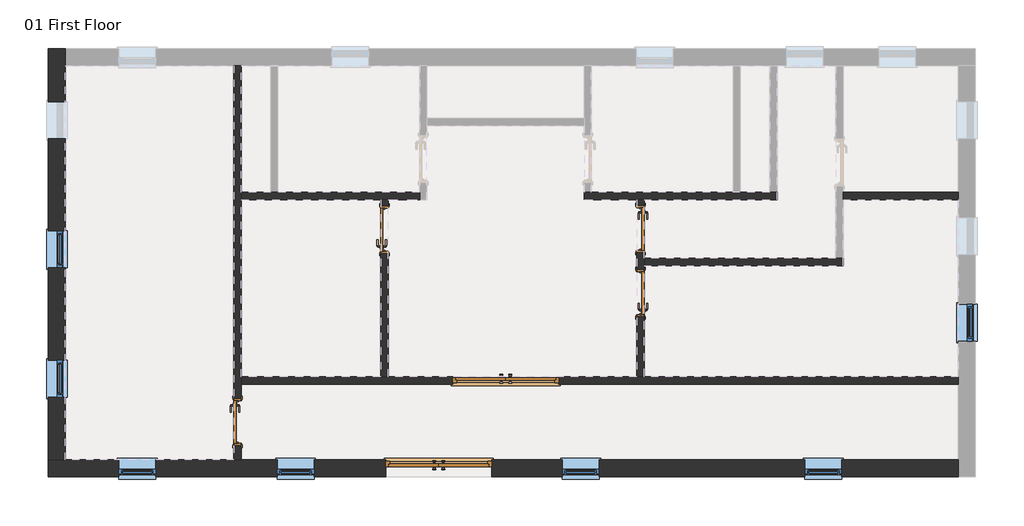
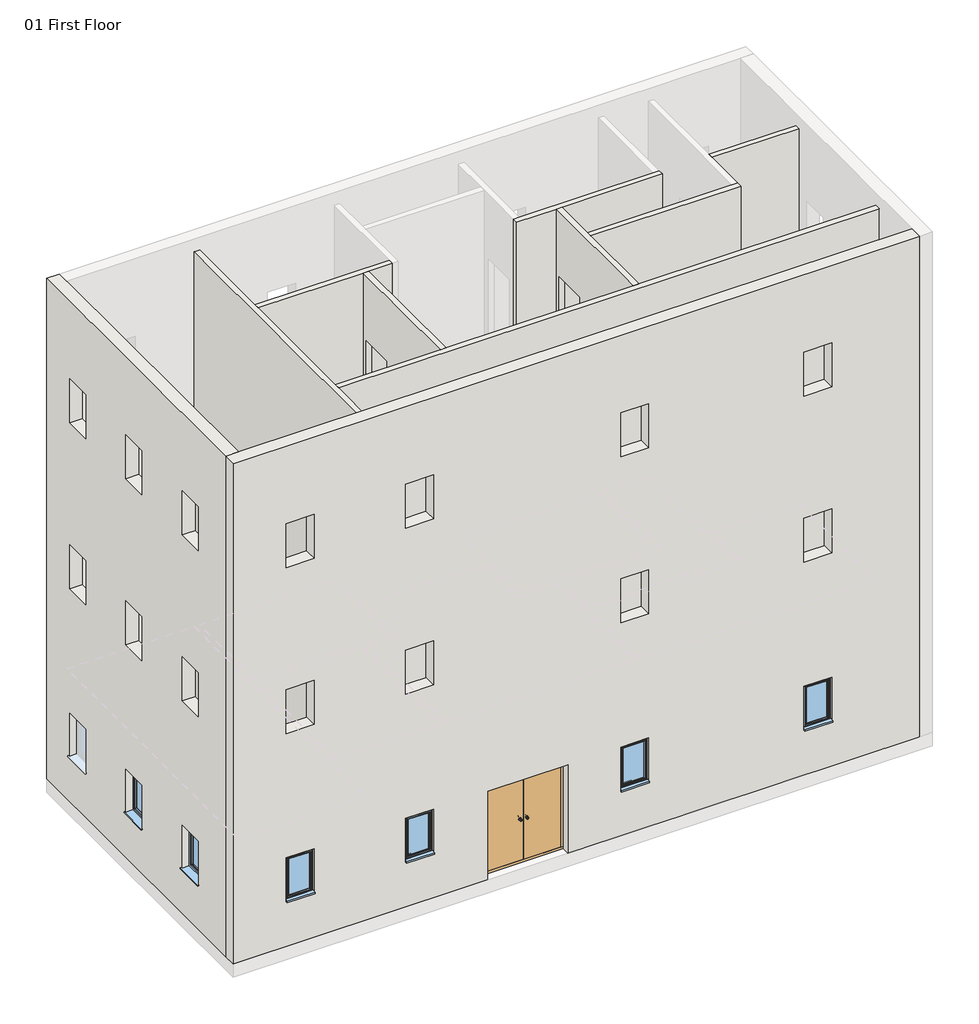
# One storey, part 1 of 2: 10 walls, 7 windows, 6 doors.
"""IFC4 building model written with IfcOpenShell, lengths in millimetres."""

from ifc_helpers import new_model, si_unit, frame, origin, origin_with_axes, place, context, project, spatial, polyline, outline, extrude, faceted_brep, transform, mapped, element, save
from components import extdbl_flush_1810_x_2110mm_182ebfd7, extdbl_flush_1810_x_2110mm_6485e741, intsgl_1_810_x_2110mm_60c2a13c, intsgl_1_810_x_2110mm_5ef26f82, sgl_plain_630_x_1050mm_deep_554a1539

model = new_model("IFC4")

# Units and contexts
model_context = context("Model", 3, world=origin())
ifc_project = project(units=[si_unit("LENGTHUNIT", "METRE", prefix="MILLI")], contexts=[model_context])

# Site, building, storey
site = spatial("IfcSite", under=ifc_project)
building = spatial("IfcBuilding", under=site)
storey = spatial("IfcBuildingStorey", under=building, Name="01 First Floor", Elevation=0.0)

# Doors
placement = place(None, origin())
extdbl_flush_1810_x_2110mm_shape = extdbl_flush_1810_x_2110mm_182ebfd7(model_context)
element("IfcDoor", 1, ObjectType="ExtDbl Flush : 1810 x 2110mm", at=placement, inside=storey, context=model_context, shape_type="MappedRepresentation", body=[
    mapped(extdbl_flush_1810_x_2110mm_shape, transform((1196.9801388, -3470.3924179, 0.0), x_axis=(1.0, 0.0, 0.0), y_axis=(0.0, 1.0, 0.0), z_axis=(0.0, 0.0, 1.0))),
])
extdbl_flush_1810_x_2110mm_2_shape = extdbl_flush_1810_x_2110mm_6485e741(model_context)
element("IfcDoor", 2, ObjectType="ExtDbl Flush : 1810 x 2110mm", at=placement, inside=storey, context=model_context, shape_type="MappedRepresentation", body=[
    mapped(extdbl_flush_1810_x_2110mm_2_shape, transform((55.7801388, -4965.3924179, 0.0), x_axis=(1.0, 0.0, 0.0), y_axis=(0.0, 1.0, 0.0), z_axis=(0.0, 0.0, 1.0))),
])
intsgl_1_810_x_2110mm_shape = intsgl_1_810_x_2110mm_60c2a13c(model_context)
element("IfcDoor", 3, ObjectType="IntSgl (1) : 810 x 2110mm", at=placement, inside=storey, context=model_context, shape_type="MappedRepresentation", body=[
    mapped(intsgl_1_810_x_2110mm_shape, transform((-870.5198612, -902.8924179, 0.0), x_axis=(0.0, 1.0, 0.0), y_axis=(-1.0, 0.0, 0.0), z_axis=(0.0, 0.0, 1.0))),
])
element("IfcDoor", 4, ObjectType="IntSgl (1) : 810 x 2110mm", at=placement, inside=storey, context=model_context, shape_type="MappedRepresentation", body=[
    mapped(intsgl_1_810_x_2110mm_shape, transform((3489.4801388, -890.3924179, 0.0), x_axis=(0.0, -1.0, 0.0), y_axis=(1.0, 0.0, 0.0), z_axis=(0.0, 0.0, 1.0))),
])
intsgl_1_810_x_2110mm_2_shape = intsgl_1_810_x_2110mm_5ef26f82(model_context)
element("IfcDoor", 5, ObjectType="IntSgl (1) : 810 x 2110mm", at=placement, inside=storey, context=model_context, shape_type="MappedRepresentation", body=[
    mapped(intsgl_1_810_x_2110mm_2_shape, transform((3489.4801388, -1982.8924179, 0.0), x_axis=(0.0, 1.0, 0.0), y_axis=(-1.0, 0.0, 0.0), z_axis=(0.0, 0.0, 1.0))),
])
element("IfcDoor", 6, ObjectType="IntSgl (1) : 810 x 2110mm", at=placement, inside=storey, context=model_context, shape_type="MappedRepresentation", body=[
    mapped(intsgl_1_810_x_2110mm_2_shape, transform((-3370.5198612, -4176.6424179, 0.0), x_axis=(0.0, -1.0, 0.0), y_axis=(1.0, 0.0, 0.0), z_axis=(0.0, 0.0, 1.0))),
])

# Walls
element("IfcWall", 7, ObjectType="Cav - 102 75i 100 p - Lwt", at=placement, inside=storey, context=model_context, shape_type="Brep", body=[
    faceted_brep([(960.7801388, -5110.3924179, 2110.0), (960.7801388, -5110.3924179, 0.0), (8901.9801388, -5110.3924179, 0.0), (8901.9801388, -5110.3924179, 11938.0), (-6598.0198612, -5110.3924179, 11938.0), (-6598.0198612, -5110.3924179, 0.0), (-849.2198612, -5110.3924179, 0.0), (-849.2198612, -5110.3924179, 2110.0), (6920.7801388, -5110.3924179, 2110.0), (6920.7801388, -5110.3924179, 1060.0), (6290.7801388, -5110.3924179, 1060.0), (6290.7801388, -5110.3924179, 2110.0), (2785.5801388, -5110.3924179, 2110.0), (2785.5801388, -5110.3924179, 1060.0), (2155.5801388, -5110.3924179, 1060.0), (2155.5801388, -5110.3924179, 2110.0), (-2068.4198612, -5110.3924179, 2110.0), (-2068.4198612, -5110.3924179, 1060.0), (-2698.4198612, -5110.3924179, 1060.0), (-2698.4198612, -5110.3924179, 2110.0), (-4763.6198612, -5110.3924179, 2110.0), (-4763.6198612, -5110.3924179, 1060.0), (-5393.6198612, -5110.3924179, 1060.0), (-5393.6198612, -5110.3924179, 2110.0), (-4763.6198612, -5110.3924179, 6123.2), (-4763.6198612, -5110.3924179, 5073.2), (-5393.6198612, -5110.3924179, 5073.2), (-5393.6198612, -5110.3924179, 6123.2), (-2068.4198612, -5110.3924179, 6123.2), (-2068.4198612, -5110.3924179, 5073.2), (-2698.4198612, -5110.3924179, 5073.2), (-2698.4198612, -5110.3924179, 6123.2), (2785.5801388, -5110.3924179, 6123.2), (2785.5801388, -5110.3924179, 5073.2), (2155.5801388, -5110.3924179, 5073.2), (2155.5801388, -5110.3924179, 6123.2), (6920.7801388, -5110.3924179, 6123.2), (6920.7801388, -5110.3924179, 5073.2), (6290.7801388, -5110.3924179, 5073.2), (6290.7801388, -5110.3924179, 6123.2), (-4763.6198612, -5110.3924179, 10085.6), (-4763.6198612, -5110.3924179, 9035.6), (-5393.6198612, -5110.3924179, 9035.6), (-5393.6198612, -5110.3924179, 10085.6), (-2068.4198612, -5110.3924179, 10085.6), (-2068.4198612, -5110.3924179, 9035.6), (-2698.4198612, -5110.3924179, 9035.6), (-2698.4198612, -5110.3924179, 10085.6), (2785.5801388, -5110.3924179, 10085.6), (2785.5801388, -5110.3924179, 9035.6), (2155.5801388, -5110.3924179, 9035.6), (2155.5801388, -5110.3924179, 10085.6), (6920.7801388, -5110.3924179, 10085.6), (6920.7801388, -5110.3924179, 9035.6), (6290.7801388, -5110.3924179, 9035.6), (6290.7801388, -5110.3924179, 10085.6), (8901.9801388, -4820.3924179, 0.0), (960.7801388, -4820.3924179, 0.0), (960.7801388, -4820.3924179, 2110.0), (-849.2198612, -4820.3924179, 2110.0), (-849.2198612, -4820.3924179, 0.0), (-3308.0198612, -4820.3924179, 0.0), (-3433.0198612, -4820.3924179, 0.0), (-6308.0198612, -4820.3924179, 0.0), (-6598.0198612, -4820.3924179, 0.0), (-6598.0198612, -4820.3924179, 11938.0), (-6308.0198612, -4820.3924179, 11938.0), (8901.9801388, -4820.3924179, 11938.0), (6920.7801388, -4820.3924179, 2110.0), (6290.7801388, -4820.3924179, 2110.0), (6290.7801388, -4820.3924179, 1060.0), (6920.7801388, -4820.3924179, 1060.0), (2785.5801388, -4820.3924179, 2110.0), (2155.5801388, -4820.3924179, 2110.0), (2155.5801388, -4820.3924179, 1060.0), (2785.5801388, -4820.3924179, 1060.0), (-2068.4198612, -4820.3924179, 2110.0), (-2698.4198612, -4820.3924179, 2110.0), (-2698.4198612, -4820.3924179, 1060.0), (-2068.4198612, -4820.3924179, 1060.0), (-4763.6198612, -4820.3924179, 2110.0), (-5393.6198612, -4820.3924179, 2110.0), (-5393.6198612, -4820.3924179, 1060.0), (-4763.6198612, -4820.3924179, 1060.0), (-4763.6198612, -4820.3924179, 6123.2), (-5393.6198612, -4820.3924179, 6123.2), (-5393.6198612, -4820.3924179, 5073.2), (-4763.6198612, -4820.3924179, 5073.2), (-2068.4198612, -4820.3924179, 6123.2), (-2698.4198612, -4820.3924179, 6123.2), (-2698.4198612, -4820.3924179, 5073.2), (-2068.4198612, -4820.3924179, 5073.2), (2785.5801388, -4820.3924179, 6123.2), (2155.5801388, -4820.3924179, 6123.2), (2155.5801388, -4820.3924179, 5073.2), (2785.5801388, -4820.3924179, 5073.2), (6920.7801388, -4820.3924179, 6123.2), (6290.7801388, -4820.3924179, 6123.2), (6290.7801388, -4820.3924179, 5073.2), (6920.7801388, -4820.3924179, 5073.2), (-4763.6198612, -4820.3924179, 10085.6), (-5393.6198612, -4820.3924179, 10085.6), (-5393.6198612, -4820.3924179, 9035.6), (-4763.6198612, -4820.3924179, 9035.6), (-2068.4198612, -4820.3924179, 10085.6), (-2698.4198612, -4820.3924179, 10085.6), (-2698.4198612, -4820.3924179, 9035.6), (-2068.4198612, -4820.3924179, 9035.6), (2785.5801388, -4820.3924179, 10085.6), (2155.5801388, -4820.3924179, 10085.6), (2155.5801388, -4820.3924179, 9035.6), (2785.5801388, -4820.3924179, 9035.6), (6920.7801388, -4820.3924179, 10085.6), (6290.7801388, -4820.3924179, 10085.6), (6290.7801388, -4820.3924179, 9035.6), (6920.7801388, -4820.3924179, 9035.6)], [[[0, 1, 2, 3, 4, 5, 6, 7], [8, 9, 10, 11], [12, 13, 14, 15], [16, 17, 18, 19], [20, 21, 22, 23], [24, 25, 26, 27], [28, 29, 30, 31], [32, 33, 34, 35], [36, 37, 38, 39], [40, 41, 42, 43], [44, 45, 46, 47], [48, 49, 50, 51], [52, 53, 54, 55]], [[56, 57, 58, 59, 60, 61, 62, 63, 64, 65, 66, 67], [68, 69, 70, 71], [72, 73, 74, 75], [76, 77, 78, 79], [80, 81, 82, 83], [84, 85, 86, 87], [88, 89, 90, 91], [92, 93, 94, 95], [96, 97, 98, 99], [100, 101, 102, 103], [104, 105, 106, 107], [108, 109, 110, 111], [112, 113, 114, 115]], [[6, 5, 64, 63, 62, 61, 60]], [[2, 1, 57, 56]], [[4, 3, 67, 66, 65]], [[5, 4, 65, 64]], [[3, 2, 56, 67]], [[9, 8, 68, 71]], [[10, 9, 71, 70]], [[11, 10, 70, 69]], [[8, 11, 69, 68]], [[13, 12, 72, 75]], [[14, 13, 75, 74]], [[15, 14, 74, 73]], [[12, 15, 73, 72]], [[17, 16, 76, 79]], [[18, 17, 79, 78]], [[19, 18, 78, 77]], [[16, 19, 77, 76]], [[21, 20, 80, 83]], [[22, 21, 83, 82]], [[23, 22, 82, 81]], [[20, 23, 81, 80]], [[60, 59, 7, 6]], [[58, 57, 1, 0]], [[59, 58, 0, 7]], [[25, 24, 84, 87]], [[26, 25, 87, 86]], [[27, 26, 86, 85]], [[24, 27, 85, 84]], [[29, 28, 88, 91]], [[30, 29, 91, 90]], [[31, 30, 90, 89]], [[28, 31, 89, 88]], [[33, 32, 92, 95]], [[34, 33, 95, 94]], [[35, 34, 94, 93]], [[32, 35, 93, 92]], [[37, 36, 96, 99]], [[38, 37, 99, 98]], [[39, 38, 98, 97]], [[36, 39, 97, 96]], [[41, 40, 100, 103]], [[42, 41, 103, 102]], [[43, 42, 102, 101]], [[40, 43, 101, 100]], [[45, 44, 104, 107]], [[46, 45, 107, 106]], [[47, 46, 106, 105]], [[44, 47, 105, 104]], [[49, 48, 108, 111]], [[50, 49, 111, 110]], [[51, 50, 110, 109]], [[48, 51, 109, 108]], [[53, 52, 112, 115]], [[54, 53, 115, 114]], [[55, 54, 114, 113]], [[52, 55, 113, 112]]]),
])
element("IfcWall", 8, ObjectType="Cav - 102 75i 100 p - Lwt", at=placement, inside=storey, context=model_context, shape_type="Brep", body=[
    faceted_brep([(-6598.0198612, 2179.6075821, 0.0), (-6598.0198612, -4820.3924179, 0.0), (-6598.0198612, -4820.3924179, 11938.0), (-6598.0198612, 2179.6075821, 11938.0), (-6598.0198612, -3123.5924179, 2110.0), (-6598.0198612, -3753.5924179, 2110.0), (-6598.0198612, -3753.5924179, 1060.0), (-6598.0198612, -3123.5924179, 1060.0), (-6598.0198612, -918.7924179, 2110.0), (-6598.0198612, -1548.7924179, 2110.0), (-6598.0198612, -1548.7924179, 1060.0), (-6598.0198612, -918.7924179, 1060.0), (-6598.0198612, 1280.0075821, 2110.0), (-6598.0198612, 650.0075821, 2110.0), (-6598.0198612, 650.0075821, 1060.0), (-6598.0198612, 1280.0075821, 1060.0), (-6598.0198612, 1280.0075821, 6123.2), (-6598.0198612, 650.0075821, 6123.2), (-6598.0198612, 650.0075821, 5073.2), (-6598.0198612, 1280.0075821, 5073.2), (-6598.0198612, -918.7924179, 6123.2), (-6598.0198612, -1548.7924179, 6123.2), (-6598.0198612, -1548.7924179, 5073.2), (-6598.0198612, -918.7924179, 5073.2), (-6598.0198612, -3123.5924179, 6123.2), (-6598.0198612, -3753.5924179, 6123.2), (-6598.0198612, -3753.5924179, 5073.2), (-6598.0198612, -3123.5924179, 5073.2), (-6598.0198612, 1280.0075821, 10085.6), (-6598.0198612, 650.0075821, 10085.6), (-6598.0198612, 650.0075821, 9035.6), (-6598.0198612, 1280.0075821, 9035.6), (-6598.0198612, -918.7924179, 10085.6), (-6598.0198612, -1548.7924179, 10085.6), (-6598.0198612, -1548.7924179, 9035.6), (-6598.0198612, -918.7924179, 9035.6), (-6598.0198612, -3123.5924179, 10085.6), (-6598.0198612, -3753.5924179, 10085.6), (-6598.0198612, -3753.5924179, 9035.6), (-6598.0198612, -3123.5924179, 9035.6), (-6308.0198612, 2179.6075821, 0.0), (-6308.0198612, 2179.6075821, 11938.0), (-6308.0198612, 1889.6075821, 11938.0), (-6308.0198612, -4820.3924179, 11938.0), (-6308.0198612, -4820.3924179, 0.0), (-6308.0198612, 1889.6075821, 0.0), (-6308.0198612, -3123.5924179, 2110.0), (-6308.0198612, -3123.5924179, 1060.0), (-6308.0198612, -3753.5924179, 1060.0), (-6308.0198612, -3753.5924179, 2110.0), (-6308.0198612, -918.7924179, 2110.0), (-6308.0198612, -918.7924179, 1060.0), (-6308.0198612, -1548.7924179, 1060.0), (-6308.0198612, -1548.7924179, 2110.0), (-6308.0198612, 1280.0075821, 2110.0), (-6308.0198612, 1280.0075821, 1060.0), (-6308.0198612, 650.0075821, 1060.0), (-6308.0198612, 650.0075821, 2110.0), (-6308.0198612, 1280.0075821, 6123.2), (-6308.0198612, 1280.0075821, 5073.2), (-6308.0198612, 650.0075821, 5073.2), (-6308.0198612, 650.0075821, 6123.2), (-6308.0198612, -918.7924179, 6123.2), (-6308.0198612, -918.7924179, 5073.2), (-6308.0198612, -1548.7924179, 5073.2), (-6308.0198612, -1548.7924179, 6123.2), (-6308.0198612, -3123.5924179, 6123.2), (-6308.0198612, -3123.5924179, 5073.2), (-6308.0198612, -3753.5924179, 5073.2), (-6308.0198612, -3753.5924179, 6123.2), (-6308.0198612, 1280.0075821, 10085.6), (-6308.0198612, 1280.0075821, 9035.6), (-6308.0198612, 650.0075821, 9035.6), (-6308.0198612, 650.0075821, 10085.6), (-6308.0198612, -918.7924179, 10085.6), (-6308.0198612, -918.7924179, 9035.6), (-6308.0198612, -1548.7924179, 9035.6), (-6308.0198612, -1548.7924179, 10085.6), (-6308.0198612, -3123.5924179, 10085.6), (-6308.0198612, -3123.5924179, 9035.6), (-6308.0198612, -3753.5924179, 9035.6), (-6308.0198612, -3753.5924179, 10085.6)], [[[0, 1, 2, 3], [4, 5, 6, 7], [8, 9, 10, 11], [12, 13, 14, 15], [16, 17, 18, 19], [20, 21, 22, 23], [24, 25, 26, 27], [28, 29, 30, 31], [32, 33, 34, 35], [36, 37, 38, 39]], [[40, 41, 42, 43, 44, 45], [46, 47, 48, 49], [50, 51, 52, 53], [54, 55, 56, 57], [58, 59, 60, 61], [62, 63, 64, 65], [66, 67, 68, 69], [70, 71, 72, 73], [74, 75, 76, 77], [78, 79, 80, 81]], [[1, 0, 40, 45, 44]], [[3, 2, 43, 42, 41]], [[0, 3, 41, 40]], [[2, 1, 44, 43]], [[47, 46, 4, 7]], [[48, 47, 7, 6]], [[49, 48, 6, 5]], [[46, 49, 5, 4]], [[51, 50, 8, 11]], [[52, 51, 11, 10]], [[53, 52, 10, 9]], [[50, 53, 9, 8]], [[55, 54, 12, 15]], [[56, 55, 15, 14]], [[57, 56, 14, 13]], [[54, 57, 13, 12]], [[59, 58, 16, 19]], [[60, 59, 19, 18]], [[61, 60, 18, 17]], [[58, 61, 17, 16]], [[63, 62, 20, 23]], [[64, 63, 23, 22]], [[65, 64, 22, 21]], [[62, 65, 21, 20]], [[67, 66, 24, 27]], [[68, 67, 27, 26]], [[69, 68, 26, 25]], [[66, 69, 25, 24]], [[71, 70, 28, 31]], [[72, 71, 31, 30]], [[73, 72, 30, 29]], [[70, 73, 29, 28]], [[75, 74, 32, 35]], [[76, 75, 35, 34]], [[77, 76, 34, 33]], [[74, 77, 33, 32]], [[79, 78, 36, 39]], [[80, 79, 39, 38]], [[81, 80, 38, 37]], [[78, 81, 37, 36]]]),
])
element("IfcWall", 9, ObjectType="Partn - p 100 p - Block", at=placement, inside=storey, context=model_context, shape_type="Brep", body=[
    faceted_brep([(-270.5198612, -265.3924179, 0.0), (-2683.0198612, -265.3924179, 0.0), (-2808.0198612, -265.3924179, 0.0), (-3308.0198612, -265.3924179, 0.0), (-3308.0198612, -265.3924179, 11638.0), (-270.5198612, -265.3924179, 11638.0), (-270.5198612, -390.3924179, 0.0), (-270.5198612, -390.3924179, 11638.0), (-808.0198612, -390.3924179, 11638.0), (-933.0198612, -390.3924179, 11638.0), (-3308.0198612, -390.3924179, 11638.0), (-3308.0198612, -390.3924179, 0.0), (-933.0198612, -390.3924179, 0.0), (-808.0198612, -390.3924179, 0.0)], [[[0, 1, 2, 3, 4, 5]], [[6, 7, 8, 9, 10, 11, 12, 13]], [[3, 2, 1, 0, 6, 13, 12, 11]], [[5, 4, 10, 9, 8, 7]], [[4, 3, 11, 10]], [[0, 5, 7, 6]]]),
])
element("IfcWall", 10, ObjectType="Partn - p 100 p - Block", at=placement, inside=storey, context=model_context, shape_type="Brep", body=[
    faceted_brep([(-3308.0198612, 1889.6075821, 11638.0), (-3308.0198612, -265.3924179, 11638.0), (-3308.0198612, -390.3924179, 11638.0), (-3308.0198612, -3407.8924179, 11638.0), (-3308.0198612, -3532.8924179, 11638.0), (-3308.0198612, -4820.3924179, 11638.0), (-3308.0198612, -4820.3924179, 0.0), (-3308.0198612, -4581.6424179, 0.0), (-3308.0198612, -4581.6424179, 2110.0), (-3308.0198612, -3771.6424179, 2110.0), (-3308.0198612, -3771.6424179, 0.0), (-3308.0198612, -3532.8924179, 0.0), (-3308.0198612, -3407.8924179, 0.0), (-3308.0198612, -390.3924179, 0.0), (-3308.0198612, -265.3924179, 0.0), (-3308.0198612, 1889.6075821, 0.0), (-3308.0198612, -4581.6424179, 4013.2), (-3308.0198612, -4581.6424179, 6123.2), (-3308.0198612, -3771.6424179, 6123.2), (-3308.0198612, -3771.6424179, 4013.2), (-3308.0198612, -4581.6424179, 7975.6), (-3308.0198612, -4581.6424179, 10085.6), (-3308.0198612, -3771.6424179, 10085.6), (-3308.0198612, -3771.6424179, 7975.6), (-3433.0198612, -4820.3924179, 11638.0), (-3433.0198612, 1889.6075821, 11638.0), (-3433.0198612, 1889.6075821, 0.0), (-3433.0198612, -3771.6424179, 0.0), (-3433.0198612, -3771.6424179, 2110.0), (-3433.0198612, -4581.6424179, 2110.0), (-3433.0198612, -4581.6424179, 0.0), (-3433.0198612, -4820.3924179, 0.0), (-3433.0198612, -4581.6424179, 4013.2), (-3433.0198612, -3771.6424179, 4013.2), (-3433.0198612, -3771.6424179, 6123.2), (-3433.0198612, -4581.6424179, 6123.2), (-3433.0198612, -4581.6424179, 7975.6), (-3433.0198612, -3771.6424179, 7975.6), (-3433.0198612, -3771.6424179, 10085.6), (-3433.0198612, -4581.6424179, 10085.6)], [[[0, 1, 2, 3, 4, 5, 6, 7, 8, 9, 10, 11, 12, 13, 14, 15], [16, 17, 18, 19], [20, 21, 22, 23]], [[24, 25, 26, 27, 28, 29, 30, 31], [32, 33, 34, 35], [36, 37, 38, 39]], [[26, 15, 14, 13, 12, 11, 10, 27]], [[6, 31, 30, 7]], [[5, 4, 3, 2, 1, 0, 25, 24]], [[0, 15, 26, 25]], [[6, 5, 24, 31]], [[29, 8, 7, 30]], [[8, 29, 28, 9]], [[9, 28, 27, 10]], [[17, 16, 32, 35]], [[18, 17, 35, 34]], [[19, 18, 34, 33]], [[16, 19, 33, 32]], [[21, 20, 36, 39]], [[22, 21, 39, 38]], [[23, 22, 38, 37]], [[20, 23, 37, 36]]]),
])
element("IfcWall", 11, ObjectType="Partn - p 100 p - Block", at=placement, inside=storey, context=model_context, shape_type="Brep", body=[
    faceted_brep([(2529.4801388, -390.3924179, 0.0), (3426.9801388, -390.3924179, 0.0), (3551.9801388, -390.3924179, 0.0), (5816.9801388, -390.3924179, 0.0), (5816.9801388, -390.3924179, 11638.0), (3551.9801388, -390.3924179, 11638.0), (3426.9801388, -390.3924179, 11638.0), (2529.4801388, -390.3924179, 11638.0), (2529.4801388, -265.3924179, 0.0), (2529.4801388, -265.3924179, 11638.0), (2654.4801388, -265.3924179, 11638.0), (5691.9801388, -265.3924179, 11638.0), (5816.9801388, -265.3924179, 11638.0), (5816.9801388, -265.3924179, 0.0), (5691.9801388, -265.3924179, 0.0), (5191.9801388, -265.3924179, 0.0), (5066.9801388, -265.3924179, 0.0), (2654.4801388, -265.3924179, 0.0)], [[[0, 1, 2, 3, 4, 5, 6, 7]], [[8, 9, 10, 11, 12, 13, 14, 15, 16, 17]], [[3, 2, 1, 0, 8, 17, 16, 15, 14, 13]], [[7, 6, 5, 4, 12, 11, 10, 9]], [[4, 3, 13, 12]], [[0, 7, 9, 8]]]),
])
element("IfcWall", 12, ObjectType="Partn - p 100 p - Block", at=placement, inside=storey, context=model_context, shape_type="SweptSolid", body=[
    extrude(outline(polyline([(-3407.8924179, 11638.0), (-390.3924179, 11638.0), (-390.3924179, 0.0), (-497.8924179, 0.0), (-497.8924179, 2110.0), (-1307.8924179, 2110.0), (-1307.8924179, 0.0), (-3407.8924179, 0.0), (-3407.8924179, 11638.0)]), holes=[polyline([(-497.8924179, 4013.2), (-497.8924179, 6123.2), (-1307.8924179, 6123.2), (-1307.8924179, 4013.2), (-497.8924179, 4013.2)]), polyline([(-497.8924179, 7975.6), (-497.8924179, 10085.6), (-1307.8924179, 10085.6), (-1307.8924179, 7975.6), (-497.8924179, 7975.6)])]), frame((-933.0198612, 0.0, 0.0), z_axis=(1.0, 0.0, 0.0), x_axis=(0.0, 1.0, 0.0)), (0.0, 0.0, 1.0), 125.0),
])
element("IfcWall", 13, ObjectType="Partn - p 100 p - Block", at=placement, inside=storey, context=model_context, shape_type="Brep", body=[
    faceted_brep([(2101.9801388, -3532.8924179, 2110.0), (2101.9801388, -3532.8924179, 0.0), (8901.9801388, -3532.8924179, 0.0), (8901.9801388, -3532.8924179, 11638.0), (-3308.0198612, -3532.8924179, 11638.0), (-3308.0198612, -3532.8924179, 0.0), (291.9801388, -3532.8924179, 0.0), (291.9801388, -3532.8924179, 2110.0), (291.9801388, -3532.8924179, 6123.2), (2101.9801388, -3532.8924179, 6123.2), (2101.9801388, -3532.8924179, 4013.2), (291.9801388, -3532.8924179, 4013.2), (291.9801388, -3532.8924179, 10085.6), (2101.9801388, -3532.8924179, 10085.6), (2101.9801388, -3532.8924179, 7975.6), (291.9801388, -3532.8924179, 7975.6), (8901.9801388, -3407.8924179, 0.0), (3551.9801388, -3407.8924179, 0.0), (3426.9801388, -3407.8924179, 0.0), (2101.9801388, -3407.8924179, 0.0), (2101.9801388, -3407.8924179, 2110.0), (291.9801388, -3407.8924179, 2110.0), (291.9801388, -3407.8924179, 0.0), (-808.0198612, -3407.8924179, 0.0), (-933.0198612, -3407.8924179, 0.0), (-3308.0198612, -3407.8924179, 0.0), (-3308.0198612, -3407.8924179, 11638.0), (-933.0198612, -3407.8924179, 11638.0), (-808.0198612, -3407.8924179, 11638.0), (3426.9801388, -3407.8924179, 11638.0), (3551.9801388, -3407.8924179, 11638.0), (8901.9801388, -3407.8924179, 11638.0), (291.9801388, -3407.8924179, 6123.2), (291.9801388, -3407.8924179, 4013.2), (2101.9801388, -3407.8924179, 4013.2), (2101.9801388, -3407.8924179, 6123.2), (291.9801388, -3407.8924179, 10085.6), (291.9801388, -3407.8924179, 7975.6), (2101.9801388, -3407.8924179, 7975.6), (2101.9801388, -3407.8924179, 10085.6)], [[[0, 1, 2, 3, 4, 5, 6, 7], [8, 9, 10, 11], [12, 13, 14, 15]], [[16, 17, 18, 19, 20, 21, 22, 23, 24, 25, 26, 27, 28, 29, 30, 31], [32, 33, 34, 35], [36, 37, 38, 39]], [[6, 5, 25, 24, 23, 22]], [[2, 1, 19, 18, 17, 16]], [[4, 3, 31, 30, 29, 28, 27, 26]], [[3, 2, 16, 31]], [[22, 21, 7, 6]], [[20, 19, 1, 0]], [[21, 20, 0, 7]], [[5, 4, 26, 25]], [[33, 32, 8, 11]], [[34, 33, 11, 10]], [[35, 34, 10, 9]], [[32, 35, 9, 8]], [[37, 36, 12, 15]], [[38, 37, 15, 14]], [[39, 38, 14, 13]], [[36, 39, 13, 12]]]),
])
element("IfcWall", 14, ObjectType="Partn - p 100 p - Block", at=placement, inside=storey, context=model_context, shape_type="Brep", body=[
    faceted_brep([(3551.9801388, -390.3924179, 11638.0), (3551.9801388, -1390.3924179, 11638.0), (3551.9801388, -1515.3924179, 11638.0), (3551.9801388, -3407.8924179, 11638.0), (3551.9801388, -3407.8924179, 0.0), (3551.9801388, -2387.8924179, 0.0), (3551.9801388, -2387.8924179, 2110.0), (3551.9801388, -1577.8924179, 2110.0), (3551.9801388, -1577.8924179, 0.0), (3551.9801388, -1515.3924179, 0.0), (3551.9801388, -1390.3924179, 0.0), (3551.9801388, -1295.3924179, 0.0), (3551.9801388, -1295.3924179, 2110.0), (3551.9801388, -485.3924179, 2110.0), (3551.9801388, -485.3924179, 0.0), (3551.9801388, -390.3924179, 0.0), (3551.9801388, -1295.3924179, 4013.2), (3551.9801388, -1295.3924179, 6123.2), (3551.9801388, -485.3924179, 6123.2), (3551.9801388, -485.3924179, 4013.2), (3551.9801388, -1577.8924179, 4013.2), (3551.9801388, -2387.8924179, 4013.2), (3551.9801388, -2387.8924179, 6123.2), (3551.9801388, -1577.8924179, 6123.2), (3551.9801388, -1295.3924179, 7975.6), (3551.9801388, -1295.3924179, 10085.6), (3551.9801388, -485.3924179, 10085.6), (3551.9801388, -485.3924179, 7975.6), (3551.9801388, -1577.8924179, 7975.6), (3551.9801388, -2387.8924179, 7975.6), (3551.9801388, -2387.8924179, 10085.6), (3551.9801388, -1577.8924179, 10085.6), (3426.9801388, -3407.8924179, 11638.0), (3426.9801388, -390.3924179, 11638.0), (3426.9801388, -390.3924179, 0.0), (3426.9801388, -485.3924179, 0.0), (3426.9801388, -485.3924179, 2110.0), (3426.9801388, -1295.3924179, 2110.0), (3426.9801388, -1295.3924179, 0.0), (3426.9801388, -1577.8924179, 0.0), (3426.9801388, -1577.8924179, 2110.0), (3426.9801388, -2387.8924179, 2110.0), (3426.9801388, -2387.8924179, 0.0), (3426.9801388, -3407.8924179, 0.0), (3426.9801388, -1295.3924179, 4013.2), (3426.9801388, -485.3924179, 4013.2), (3426.9801388, -485.3924179, 6123.2), (3426.9801388, -1295.3924179, 6123.2), (3426.9801388, -1577.8924179, 4013.2), (3426.9801388, -1577.8924179, 6123.2), (3426.9801388, -2387.8924179, 6123.2), (3426.9801388, -2387.8924179, 4013.2), (3426.9801388, -1295.3924179, 7975.6), (3426.9801388, -485.3924179, 7975.6), (3426.9801388, -485.3924179, 10085.6), (3426.9801388, -1295.3924179, 10085.6), (3426.9801388, -1577.8924179, 7975.6), (3426.9801388, -1577.8924179, 10085.6), (3426.9801388, -2387.8924179, 10085.6), (3426.9801388, -2387.8924179, 7975.6)], [[[0, 1, 2, 3, 4, 5, 6, 7, 8, 9, 10, 11, 12, 13, 14, 15], [16, 17, 18, 19], [20, 21, 22, 23], [24, 25, 26, 27], [28, 29, 30, 31]], [[32, 33, 34, 35, 36, 37, 38, 39, 40, 41, 42, 43], [44, 45, 46, 47], [48, 49, 50, 51], [52, 53, 54, 55], [56, 57, 58, 59]], [[34, 15, 14, 35]], [[4, 43, 42, 5]], [[8, 39, 38, 11, 10, 9]], [[3, 2, 1, 0, 33, 32]], [[0, 15, 34, 33]], [[4, 3, 32, 43]], [[7, 40, 39, 8]], [[40, 7, 6, 41]], [[41, 6, 5, 42]], [[37, 12, 11, 38]], [[12, 37, 36, 13]], [[13, 36, 35, 14]], [[17, 16, 44, 47]], [[18, 17, 47, 46]], [[19, 18, 46, 45]], [[16, 19, 45, 44]], [[49, 48, 20, 23]], [[50, 49, 23, 22]], [[51, 50, 22, 21]], [[48, 51, 21, 20]], [[25, 24, 52, 55]], [[26, 25, 55, 54]], [[27, 26, 54, 53]], [[24, 27, 53, 52]], [[57, 56, 28, 31]], [[58, 57, 31, 30]], [[59, 58, 30, 29]], [[56, 59, 29, 28]]]),
])
element("IfcWall", 15, ObjectType="Partn - p 100 p - Block", at=placement, inside=storey, context=model_context, shape_type="SweptSolid", body=[
    extrude(outline(polyline([(8901.9801388, -390.3924179), (6941.9801388, -390.3924179), (6941.9801388, -265.3924179), (8901.9801388, -265.3924179), (8901.9801388, -390.3924179)])), origin_with_axes(), (0.0, 0.0, 1.0), 11638.0),
])
element("IfcWall", 16, ObjectType="Partn - p 100 p - Block", at=placement, inside=storey, context=model_context, shape_type="Brep", body=[
    faceted_brep([(3551.9801388, -1515.3924179, 0.0), (6941.9801388, -1515.3924179, 0.0), (6941.9801388, -1515.3924179, 11638.0), (3551.9801388, -1515.3924179, 11638.0), (3551.9801388, -1390.3924179, 0.0), (3551.9801388, -1390.3924179, 11638.0), (6816.9801388, -1390.3924179, 11638.0), (6941.9801388, -1390.3924179, 11638.0), (6941.9801388, -1390.3924179, 0.0), (6816.9801388, -1390.3924179, 0.0)], [[[0, 1, 2, 3]], [[4, 5, 6, 7, 8, 9]], [[1, 0, 4, 9, 8]], [[3, 2, 7, 6, 5]], [[0, 3, 5, 4]], [[2, 1, 8, 7]]]),
])

# Windows
sgl_plain_630_x_1050mm_deep_shape = sgl_plain_630_x_1050mm_deep_554a1539(model_context)
element("IfcWindow", 17, ObjectType="Sgl Plain : 630 x 1050mm Deep", at=placement, inside=storey, context=model_context, shape_type="MappedRepresentation", body=[
    mapped(sgl_plain_630_x_1050mm_deep_shape, transform((6605.7801388, -4956.9358501, 0.0), x_axis=(-1.0, 0.0, 0.0), y_axis=(0.0, -1.0, 0.0), z_axis=(0.0, 0.0, 1.0))),
])
element("IfcWindow", 18, ObjectType="Sgl Plain : 630 x 1050mm Deep", at=placement, inside=storey, context=model_context, shape_type="MappedRepresentation", body=[
    mapped(sgl_plain_630_x_1050mm_deep_shape, transform((2470.5801388, -4956.9358501, 0.0), x_axis=(-1.0, 0.0, 0.0), y_axis=(0.0, -1.0, 0.0), z_axis=(0.0, 0.0, 1.0))),
])
element("IfcWindow", 19, ObjectType="Sgl Plain : 630 x 1050mm Deep", at=placement, inside=storey, context=model_context, shape_type="MappedRepresentation", body=[
    mapped(sgl_plain_630_x_1050mm_deep_shape, transform((-2383.4198612, -4956.9358501, 0.0), x_axis=(-1.0, 0.0, 0.0), y_axis=(0.0, -1.0, 0.0), z_axis=(0.0, 0.0, 1.0))),
])
element("IfcWindow", 20, ObjectType="Sgl Plain : 630 x 1050mm Deep", at=placement, inside=storey, context=model_context, shape_type="MappedRepresentation", body=[
    mapped(sgl_plain_630_x_1050mm_deep_shape, transform((-5078.6198612, -4956.9358501, 0.0), x_axis=(-1.0, 0.0, 0.0), y_axis=(0.0, -1.0, 0.0), z_axis=(0.0, 0.0, 1.0))),
])
element("IfcWindow", 21, ObjectType="Sgl Plain : 630 x 1050mm Deep", at=placement, inside=storey, context=model_context, shape_type="MappedRepresentation", body=[
    mapped(sgl_plain_630_x_1050mm_deep_shape, transform((9038.523571, -2483.2924179, 0.0), x_axis=(0.0, -1.0, 0.0), y_axis=(1.0, 0.0, 0.0), z_axis=(0.0, 0.0, 1.0))),
])
element("IfcWindow", 22, ObjectType="Sgl Plain : 630 x 1050mm Deep", at=placement, inside=storey, context=model_context, shape_type="MappedRepresentation", body=[
    mapped(sgl_plain_630_x_1050mm_deep_shape, transform((-6461.476429, -3438.5924179, 0.0), x_axis=(0.0, -1.0, 0.0), y_axis=(1.0, 0.0, 0.0), z_axis=(0.0, 0.0, 1.0))),
])
element("IfcWindow", 23, ObjectType="Sgl Plain : 630 x 1050mm Deep", at=placement, inside=storey, context=model_context, shape_type="MappedRepresentation", body=[
    mapped(sgl_plain_630_x_1050mm_deep_shape, transform((-6461.476429, -1233.7924179, 0.0), x_axis=(0.0, -1.0, 0.0), y_axis=(1.0, 0.0, 0.0), z_axis=(0.0, 0.0, 1.0))),
])

save(model, "model.ifc")
